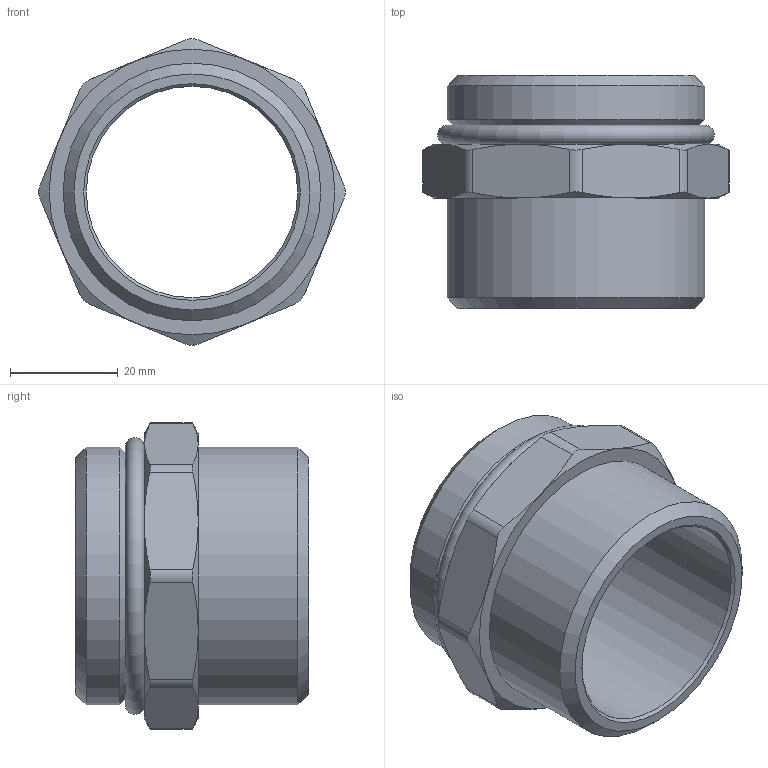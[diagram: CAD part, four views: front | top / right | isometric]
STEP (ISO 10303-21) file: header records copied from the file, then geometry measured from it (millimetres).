
FILE_DESCRIPTION(('STEP AP242'), '1');
FILE_NAME('覆.302634.086.000 捘 - VTr.584.N.0808', '', ('UNSPECIFIED'), ('UNSPECIFIED'), 'C3D Converter', 'C3D Toolkit', '');
FILE_SCHEMA(('AP242_MANAGED_MODEL_BASED_3D_ENGINEERING_MIM_LF { 1 0 10303 442 1 1 4 }'));
Length unit declared in the file: millimetre
Products named in the file (3): ВР.302634.086.000 СБ; ВР.753157.024
Assembly tree (2 placements, depth 2):
  ВР.302634.086.000 СБ
    ВР.753157.024
    (unnamed)
Bounding box: 56.87 x 43.3 x 56.87 mm (x, y, z)
Volume: 30646.3 mm3; surface area: 15669.4 mm2
Topology: 2 solids, 2 shells, 37 faces, 96 edges, 65 vertices
Faces by surface type: plane 12, cylinder 12, cone 10, torus 3
Full cylindrical faces by diameter (mm): 39.2 x1, 44.5 x1, 47.803 x2
Entity records: 2814 total; most frequent: CARTESIAN_POINT 1861, DIRECTION 146, ORIENTED_EDGE 140, EDGE_CURVE 70, AXIS2_PLACEMENT_3D 65, EDGE_LOOP 51, VERTEX_POINT 51, B_SPLINE_CURVE_WITH_KNOTS 38
